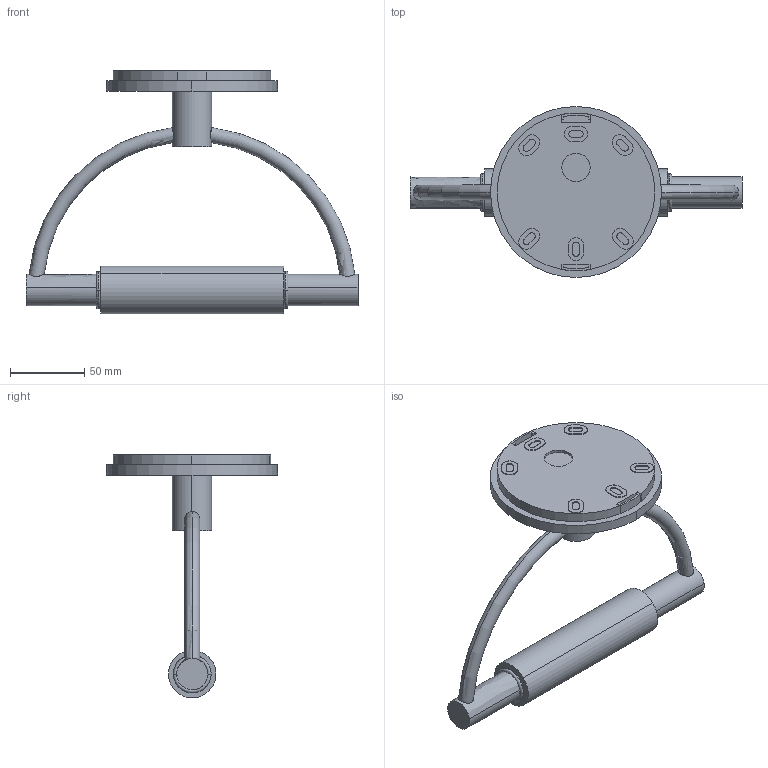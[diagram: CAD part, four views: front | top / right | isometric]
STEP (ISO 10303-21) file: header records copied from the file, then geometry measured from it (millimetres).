
FILE_DESCRIPTION((''),'2;1');
FILE_NAME('CINI&NILS - Gradi minisoffitto 3D.stp','2011-02-17T14:39:59',(''),(''),'AutoCAD STEP 2000i','AutoCAD 2000i',', , ');
FILE_SCHEMA(('CONFIG_CONTROL_DESIGN'));
Length unit declared in the file: millimetre
Products named in the file (1): CINI&NILS - GRADI MINISOFFITTO 3D
Bounding box: 223.22 x 115 x 163.73 mm (x, y, z)
Volume: 306321.3 mm3; surface area: 59444.2 mm2
Topology: 1 solids, 1 shells, 151 faces, 391 edges, 261 vertices
Faces by surface type: cylinder 65, plane 59, bspline 15, torus 12
Entity records: 6122 total; most frequent: CARTESIAN_POINT 2261, DIRECTION 797, ORIENTED_EDGE 782, EDGE_CURVE 391, AXIS2_PLACEMENT_3D 299, VERTEX_POINT 261, VECTOR 199, LINE 199
